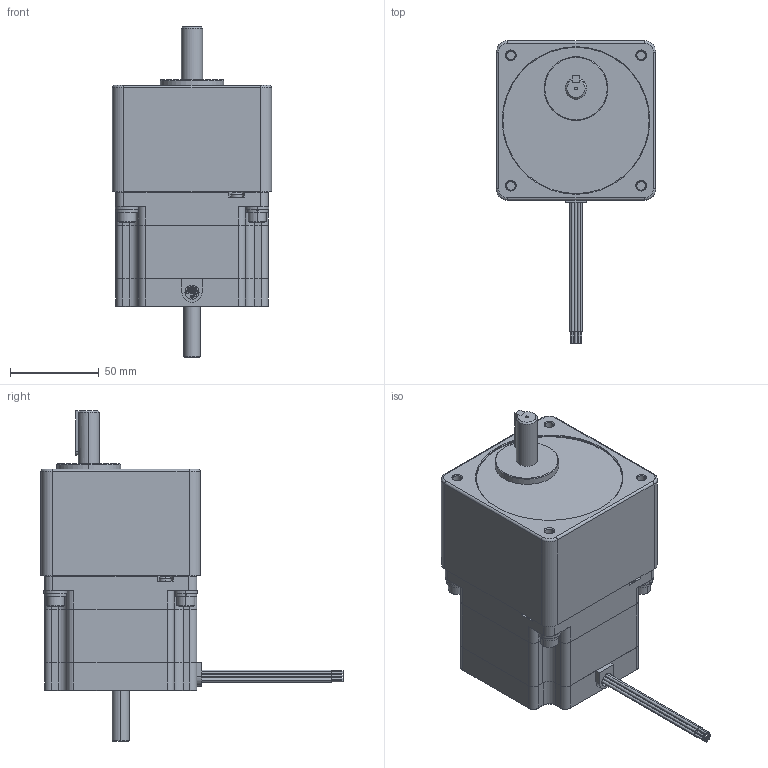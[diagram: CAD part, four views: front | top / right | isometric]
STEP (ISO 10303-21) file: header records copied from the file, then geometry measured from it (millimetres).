
FILE_DESCRIPTION (( 'STEP AP214' ), '1' );
FILE_NAME ('34YSG008D-LW8-R50.STEP', '2010-06-18T16:29:03', ( 'Tim Raines' ), ( 'Anaheim Automation' ), 'SwSTEP 2.0', 'SolidWorks 2010', '' );
FILE_SCHEMA (( 'AUTOMOTIVE_DESIGN' ));
Length unit declared in the file: millimetre
Products named in the file (6): 34YSG Motor_34YSG008D-LW8; Socket Head Cap Screw_AM_B18.3.1M - 6 x 1.0 x 20 Hex SHCS -- 20NHX; Flat Washer Narrow_AM_B18.22M - Plain washer, 6 mm, narrow; Lock Washer Spring Regular_AI_Regular LW 0.25; 34YSG008D-LW8-R50; 34SG Series_34SG2
Assembly tree (14 placements, depth 2):
  34YSG008D-LW8-R50
    Lock Washer Spring Regular_AI_Regular LW 0.25  x4
    Flat Washer Narrow_AM_B18.22M - Plain washer, 6 mm, narrow  x4
    34SG Series_34SG2
    Socket Head Cap Screw_AM_B18.3.1M - 6 x 1.0 x 20 Hex SHCS -- 20NHX  x4
    34YSG Motor_34YSG008D-LW8
Bounding box: 89.92 x 170.43 x 186.47 mm (x, y, z)
Volume: 913124.2 mm3; surface area: 93088.2 mm2
Topology: 14 solids, 14 shells, 587 faces, 1391 edges, 862 vertices
Faces by surface type: plane 272, cylinder 194, cone 101, torus 20
Entity records: 18905 total; most frequent: CARTESIAN_POINT 2631, DIRECTION 2475, ORIENTED_EDGE 2262, EDGE_CURVE 1131, AXIS2_PLACEMENT_3D 919, VERTEX_POINT 715, LINE 637, VECTOR 637
